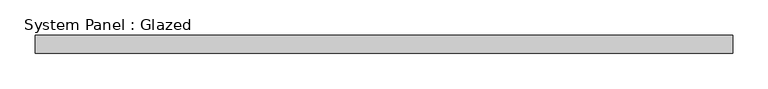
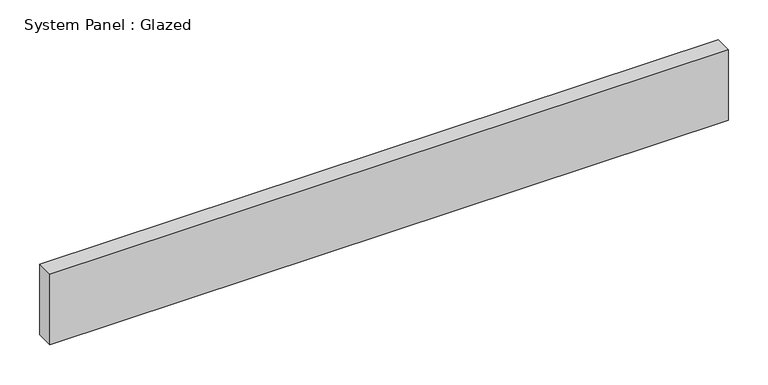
"""IFC4 building model written with IfcOpenShell, lengths in millimetres: plate geometry, System Panel : Glazed."""

from ifc_helpers import new_model, si_unit, origin, origin_with_axes, place, context, project, spatial, polyline, outline, extrude, source, transform, mapped, element, save


def system_panel_glazed_10c68863(model_context):
    return source(origin(), model_context, "Body", "SweptSolid", [
        extrude(outline(polyline([(492.125, 19.05), (-492.125, 19.05), (-492.125, 44.45), (492.125, 44.45), (492.125, 19.05)])), origin_with_axes(), (0.0, 0.0, 1.0), 107.8104781),
    ])


if __name__ == "__main__":
    model = new_model("IFC4")
    model_context = context("Model", 3, world=origin())
    ifc_project = project(units=[si_unit("LENGTHUNIT", "METRE", prefix="MILLI")], contexts=[model_context])
    site = spatial("IfcSite", under=ifc_project)
    building = spatial("IfcBuilding", under=site)
    placement = place(None, origin())
    system_panel_glazed_shape = system_panel_glazed_10c68863(model_context)
    element("IfcPlate", 1, ObjectType="System Panel : Glazed", at=placement, inside=building, context=model_context, shape_type="MappedRepresentation", body=[
        mapped(system_panel_glazed_shape, transform((0.0, 0.0, 0.0), x_axis=(1.0, 0.0, 0.0), y_axis=(0.0, 1.0, 0.0), z_axis=(0.0, 0.0, 1.0))),
    ])
    save(model, "model.ifc")
